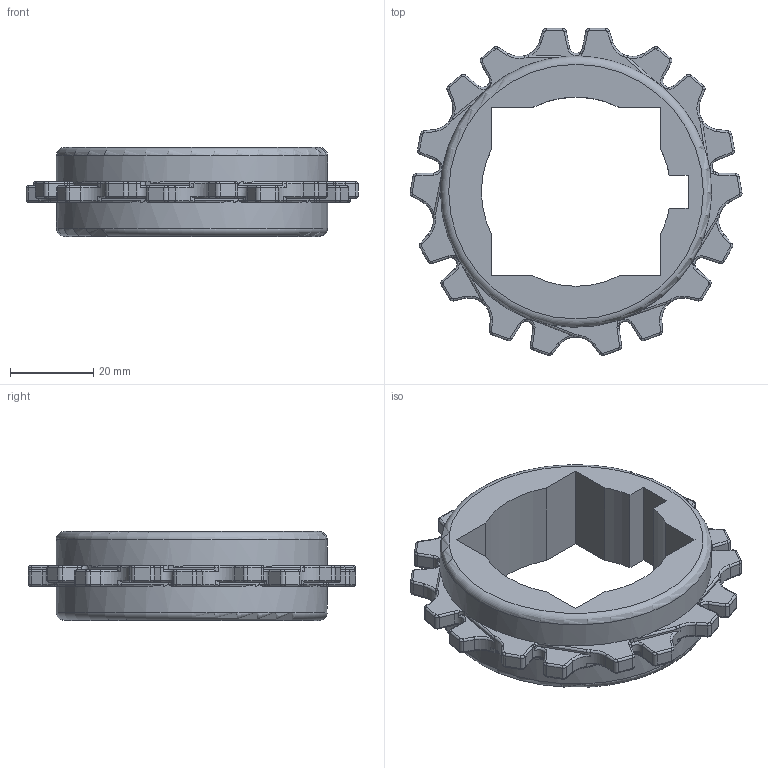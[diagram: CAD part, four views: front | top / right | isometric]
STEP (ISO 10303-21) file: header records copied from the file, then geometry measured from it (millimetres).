
FILE_DESCRIPTION(/* description */ (''),/* implementation_level */ '2;1');
FILE_NAME(/* name */ 'HS-700B-9T-S40.stp',/* time_stamp */ '2024-06-13T11:34:52+08:00',/* author */ (''),/* organization */ (''),/* preprocessor_version */ 'ST-DEVELOPER v15',/* originating_system */ 'SIEMENS PLM Software NX 8.5',/* authorisation */ '');
FILE_SCHEMA (('AP203_CONFIGURATION_CONTROLLED_3D_DESIGN_OF_MECHANICAL_PARTS_AND_ASSEMBLIES_MIM_LF { 1 0 10303 403 2 1 2}'));
Length unit declared in the file: millimetre
Products named in the file (1): Admi21683362w41w
Bounding box: 79.81 x 78.62 x 21.4 mm (x, y, z)
Volume: 36523.9 mm3; surface area: 13333 mm2
Topology: 1 solids, 1 shells, 552 faces, 1380 edges, 830 vertices
Faces by surface type: cylinder 236, plane 126, torus 118, bspline 72
Full cylindrical faces by diameter (mm): 65.2 x2
Entity records: 18379 total; most frequent: CARTESIAN_POINT 5175, DIRECTION 2906, ORIENTED_EDGE 2748, EDGE_CURVE 1374, AXIS2_PLACEMENT_3D 1191, VERTEX_POINT 828, CIRCLE 709, EDGE_LOOP 558
